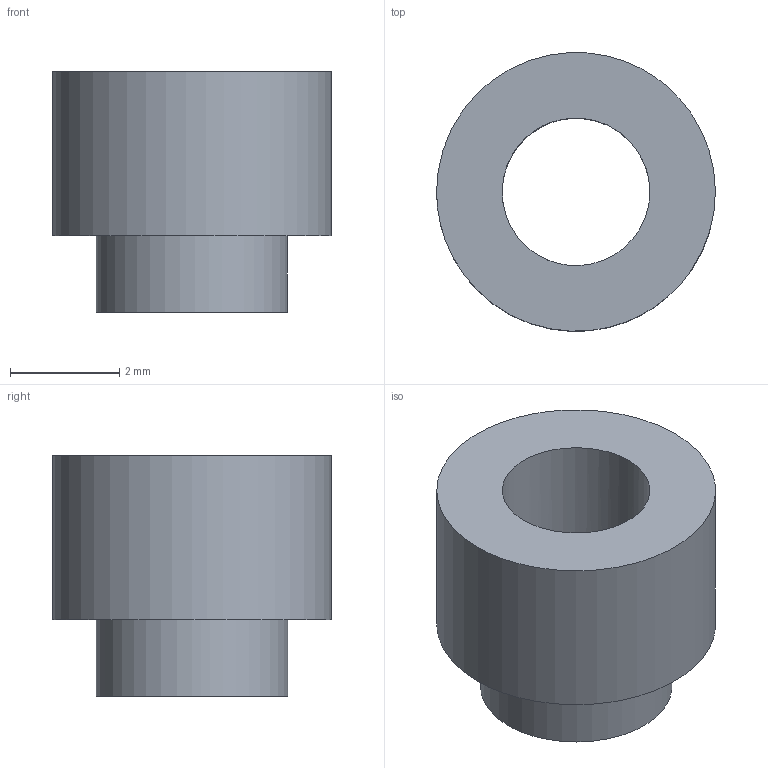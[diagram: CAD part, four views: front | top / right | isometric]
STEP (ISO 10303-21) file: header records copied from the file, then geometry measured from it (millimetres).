
FILE_DESCRIPTION(('FreeCAD Model'),'2;1');
FILE_NAME('Open CASCADE Shape Model','2026-03-20T17:23:08',('Author'),( ''),'Open CASCADE STEP processor 7.8','FreeCAD','Unknown');
FILE_SCHEMA(('AP242_MANAGED_MODEL_BASED_3D_ENGINEERING_MIM_LF. {1 0 10303 442 1 1 4 }'));
Length unit declared in the file: millimetre
Products named in the file (1): 1_transformed
Bounding box: 5.1 x 5.09 x 4.4 mm (x, y, z)
Volume: 50 mm3; surface area: 130.5 mm2
Topology: 1 solids, 1 shells, 6 faces, 10 edges, 7 vertices
Faces by surface type: bspline 6
Entity records: 209 total; most frequent: CARTESIAN_POINT 113, ORIENTED_EDGE 20, EDGE_CURVE 10, FACE_BOUND 9, EDGE_LOOP 9, VERTEX_POINT 7, ADVANCED_FACE 6, B_SPLINE_SURFACE_WITH_KNOTS 3
